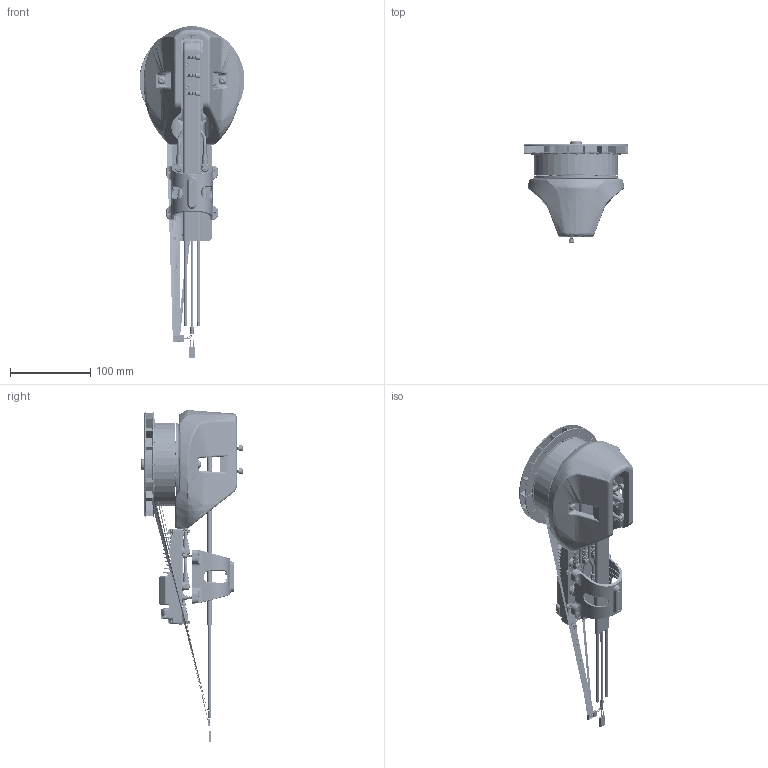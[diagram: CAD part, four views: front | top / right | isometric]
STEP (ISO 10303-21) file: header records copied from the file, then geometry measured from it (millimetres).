
FILE_DESCRIPTION (( 'STEP AP214' ), '1' );
FILE_NAME ('CM-X9 PLUS-G2-9620-80KV-D45-黑-贴标-HW-无桨（对外）.STEP', '2025-05-07T10:49:05', ( '' ), ( '' ), 'SwSTEP 2.0', 'SolidWorks 2021', '' );
FILE_SCHEMA (( 'AUTOMOTIVE_DESIGN' ));
Length unit declared in the file: millimetre
Products named in the file (1): CM-X9 PLUS-G2-9620-80KV-D45-黑-贴标-HW-无桨（对外）
Bounding box: 130.38 x 125.5 x 412.48 mm (x, y, z)
Volume: 807678.6 mm3; surface area: 295011.6 mm2
Topology: 86 solids, 99 shells, 15705 faces, 40530 edges, 25279 vertices
Faces by surface type: plane 6825, cylinder 4651, cone 2804, bspline 984, torus 421, sphere 20
Entity records: 822264 total; most frequent: CARTESIAN_POINT 237796, ORIENTED_EDGE 89564, DIRECTION 84130, EDGE_CURVE 44782, AXIS2_PLACEMENT_3D 28981, VERTEX_POINT 28004, VECTOR 26168, LINE 26168
